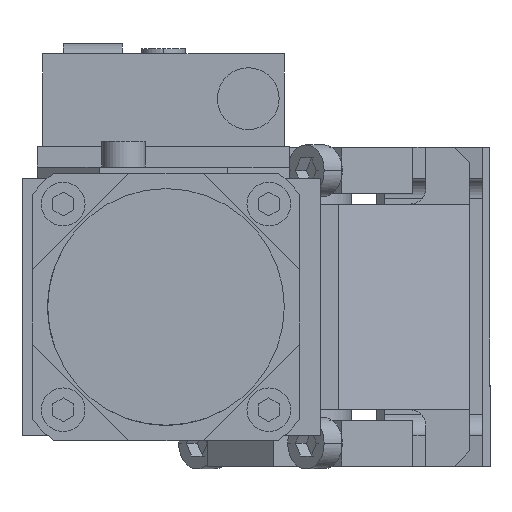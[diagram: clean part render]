
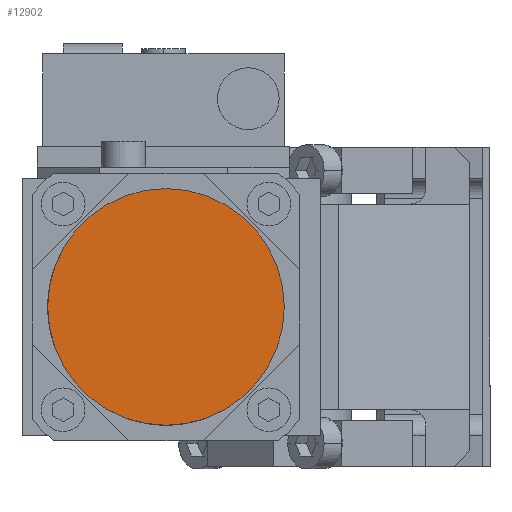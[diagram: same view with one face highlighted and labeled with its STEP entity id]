
A CAD part, front view. The second image highlights one B-rep face of the part: STEP entity #12902.
In plain terms, the highlighted planar face has unit normal (0, -1, 0) as drawn and (0, 1, 0) by its records, which use the part's own axes.
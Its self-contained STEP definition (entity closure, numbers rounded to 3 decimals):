
#357 = VERTEX_POINT ( 'NONE', #9401 ) ;
#410 = VERTEX_POINT ( 'NONE', #9177 ) ;
#1480 = ORIENTED_EDGE ( 'NONE', *, *, #2339, .T. ) ;
#1515 = AXIS2_PLACEMENT_3D ( 'NONE', #9809, #9725, #12743 ) ;
#1578 = CIRCLE ( 'NONE', #6701, 23. ) ;
#2339 = EDGE_CURVE ( 'NONE', #410, #357, #1578, .T. ) ;
#3354 = ORIENTED_EDGE ( 'NONE', *, *, #4809, .T. ) ;
#3915 = FACE_OUTER_BOUND ( 'NONE', #5892, .T. ) ;
#4809 = EDGE_CURVE ( 'NONE', #357, #410, #13260, .T. ) ;
#5892 = EDGE_LOOP ( 'NONE', ( #1480, #3354 ) ) ;
#5979 = DIRECTION ( 'NONE',  ( 0., 0., 1. ) ) ;
#6331 = PLANE ( 'NONE',  #14637 ) ;
#6701 = AXIS2_PLACEMENT_3D ( 'NONE', #14697, #14619, #14617 ) ;
#7453 = DIRECTION ( 'NONE',  ( 0., 1., 0. ) ) ;
#9177 = CARTESIAN_POINT ( 'NONE',  ( 0., 113., -23. ) ) ;
#9193 = CARTESIAN_POINT ( 'NONE',  ( 0., 113., 0. ) ) ;
#9401 = CARTESIAN_POINT ( 'NONE',  ( 0., 113., 23. ) ) ;
#9725 = DIRECTION ( 'NONE',  ( 0., 1., 0. ) ) ;
#9809 = CARTESIAN_POINT ( 'NONE',  ( 0., 113., 0. ) ) ;
#12743 = DIRECTION ( 'NONE',  ( 0., 0., 1. ) ) ;
#12902 = ADVANCED_FACE ( 'NONE', ( #3915 ), #6331, .T. ) ;
#13260 = CIRCLE ( 'NONE', #1515, 23. ) ;
#14617 = DIRECTION ( 'NONE',  ( 0., 0., 1. ) ) ;
#14619 = DIRECTION ( 'NONE',  ( 0., 1., 0. ) ) ;
#14637 = AXIS2_PLACEMENT_3D ( 'NONE', #9193, #7453, #5979 ) ;
#14697 = CARTESIAN_POINT ( 'NONE',  ( 0., 113., 0. ) ) ;
